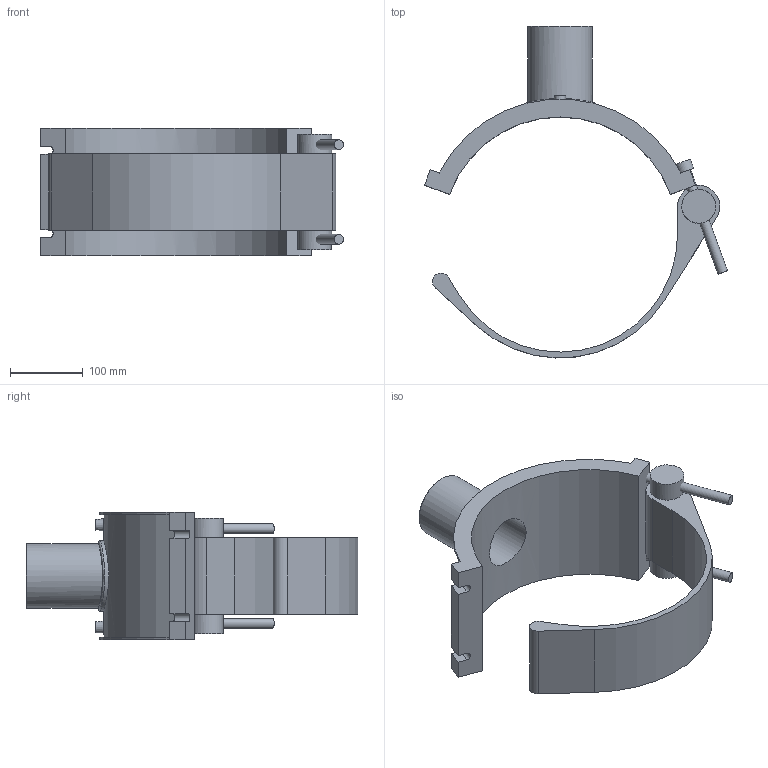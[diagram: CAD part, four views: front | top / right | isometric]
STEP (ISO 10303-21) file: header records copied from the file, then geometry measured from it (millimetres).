
FILE_DESCRIPTION(/* description */ ('PLASSON BRANCH SADDLE 12'''' x 3'''''),/* implementation_level */ '2;1');
FILE_NAME(/* name */ 'C:\Dropbox\KIMPROJECTS-Inventor 2019\99-16-3568-Processing Inch\ASTM ElectroFusion 2021\5958B-2\5958BB03120030.ipt.stp',/* time_stamp */ '2021-08-30T09:54:00+03:00',/* author */ ('KIM'),/* organization */ (''),/* preprocessor_version */ 'ST-DEVELOPER v17.2',/* originating_system */ 'Autodesk Inventor 2019',/* authorisation */ '');
FILE_SCHEMA (('AUTOMOTIVE_DESIGN { 1 0 10303 214 3 1 1 }'));
Length unit declared in the file: inch
Products named in the file (1): 5958BB03120030
Bounding box: 416.58 x 456.57 x 176.02 mm (x, y, z)
Volume: 2743760.6 mm3; surface area: 410007.9 mm2
Topology: 4 solids, 4 shells, 65 faces, 147 edges, 102 vertices
Faces by surface type: plane 37, cylinder 24, cone 3, bspline 1
Full cylindrical faces by diameter (mm): 4 x2, 10 x2, 13.583 x2, 22.638 x2, 46.57 x2, 70.96 x1, 88.7 x1, 97.57 x1
Entity records: 2290 total; most frequent: CARTESIAN_POINT 733, DIRECTION 322, ORIENTED_EDGE 294, EDGE_CURVE 147, AXIS2_PLACEMENT_3D 121, VERTEX_POINT 102, LINE 80, VECTOR 80
